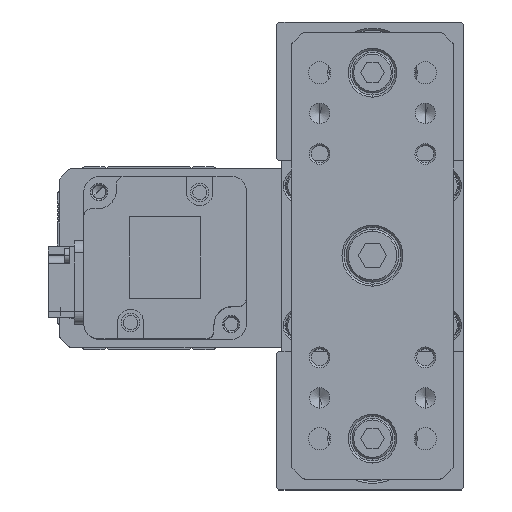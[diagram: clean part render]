
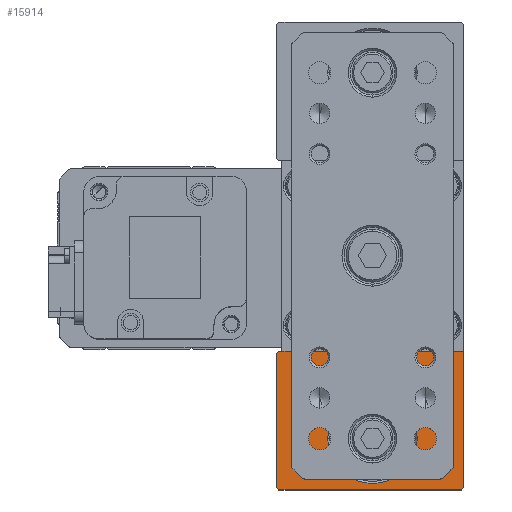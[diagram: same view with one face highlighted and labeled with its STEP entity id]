
A CAD part, top view. The second image highlights one B-rep face of the part: STEP entity #15914.
In plain terms, the highlighted planar face has unit normal (0, 0, 1).
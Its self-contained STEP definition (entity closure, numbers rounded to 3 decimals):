
#689 = LINE ( 'NONE', #11419, #23207 ) ;
#868 = AXIS2_PLACEMENT_3D ( 'NONE', #33830, #1576, #22121 ) ;
#1005 = ORIENTED_EDGE ( 'NONE', *, *, #34434, .T. ) ;
#1226 = VECTOR ( 'NONE', #17207, 1000. ) ;
#1442 = CARTESIAN_POINT ( 'NONE',  ( 11., -45., 311. ) ) ;
#1576 = DIRECTION ( 'NONE',  ( 0., 0., -1. ) ) ;
#1710 = CARTESIAN_POINT ( 'NONE',  ( -23., -57.5, 311. ) ) ;
#1941 = CIRCLE ( 'NONE', #13925, 11. ) ;
#1971 = EDGE_CURVE ( 'NONE', #14686, #16151, #31474, .T. ) ;
#2691 = VECTOR ( 'NONE', #34218, 1000. ) ;
#3340 = DIRECTION ( 'NONE',  ( 0., 1., 0. ) ) ;
#5082 = CARTESIAN_POINT ( 'NONE',  ( -23.5, -57., 311. ) ) ;
#5883 = EDGE_CURVE ( 'NONE', #35343, #34131, #14216, .T. ) ;
#5988 = CARTESIAN_POINT ( 'NONE',  ( 22.5, -23.5, 311. ) ) ;
#6419 = VECTOR ( 'NONE', #15686, 1000. ) ;
#6543 = CARTESIAN_POINT ( 'NONE',  ( 22., -57.5, 311. ) ) ;
#7222 = VERTEX_POINT ( 'NONE', #1442 ) ;
#7364 = ORIENTED_EDGE ( 'NONE', *, *, #1971, .T. ) ;
#8941 = DIRECTION ( 'NONE',  ( -1., 0., 0. ) ) ;
#9243 = DIRECTION ( 'NONE',  ( 0.707, 0.707, 0. ) ) ;
#9493 = VERTEX_POINT ( 'NONE', #14992 ) ;
#10518 = LINE ( 'NONE', #31235, #2691 ) ;
#11419 = CARTESIAN_POINT ( 'NONE',  ( -23.5, -24., 311. ) ) ;
#11694 = CARTESIAN_POINT ( 'NONE',  ( 22.5, -57., 311. ) ) ;
#11757 = ORIENTED_EDGE ( 'NONE', *, *, #5883, .T. ) ;
#12165 = CARTESIAN_POINT ( 'NONE',  ( 22., -57.5, 311. ) ) ;
#12864 = ORIENTED_EDGE ( 'NONE', *, *, #35714, .T. ) ;
#13519 = EDGE_CURVE ( 'NONE', #35634, #20476, #20441, .T. ) ;
#13920 = EDGE_CURVE ( 'NONE', #9493, #7222, #20782, .T. ) ;
#13925 = AXIS2_PLACEMENT_3D ( 'NONE', #33314, #15740, #36283 ) ;
#14216 = LINE ( 'NONE', #33263, #6419 ) ;
#14686 = VERTEX_POINT ( 'NONE', #6543 ) ;
#14992 = CARTESIAN_POINT ( 'NONE',  ( -11., -45., 311. ) ) ;
#15686 = DIRECTION ( 'NONE',  ( 0.707, -0.707, 0. ) ) ;
#15740 = DIRECTION ( 'NONE',  ( 0., 0., -1. ) ) ;
#15838 = ORIENTED_EDGE ( 'NONE', *, *, #13519, .T. ) ;
#15884 = VECTOR ( 'NONE', #9243, 1000. ) ;
#15914 = ADVANCED_FACE ( 'NONE', ( #22925, #28902 ), #19216, .F. ) ;
#15966 = LINE ( 'NONE', #23058, #1226 ) ;
#15988 = EDGE_CURVE ( 'NONE', #14686, #34131, #10518, .T. ) ;
#16151 = VERTEX_POINT ( 'NONE', #11694 ) ;
#16769 = DIRECTION ( 'NONE',  ( 0., 0., -1. ) ) ;
#17207 = DIRECTION ( 'NONE',  ( 0., 1., 0. ) ) ;
#17386 = DIRECTION ( 'NONE',  ( -0.707, -0.707, 0. ) ) ;
#17826 = EDGE_CURVE ( 'NONE', #20476, #20206, #689, .T. ) ;
#19216 = PLANE ( 'NONE',  #868 ) ;
#20139 = EDGE_LOOP ( 'NONE', ( #28074, #7364, #1005, #15838, #31378, #33977, #11757 ) ) ;
#20206 = VERTEX_POINT ( 'NONE', #32730 ) ;
#20384 = LINE ( 'NONE', #20950, #29102 ) ;
#20441 = LINE ( 'NONE', #5988, #34239 ) ;
#20476 = VERTEX_POINT ( 'NONE', #36973 ) ;
#20782 = CIRCLE ( 'NONE', #29117, 11. ) ;
#20950 = CARTESIAN_POINT ( 'NONE',  ( 22.5, -57.5, 311. ) ) ;
#21064 = EDGE_LOOP ( 'NONE', ( #12864, #38142 ) ) ;
#22121 = DIRECTION ( 'NONE',  ( -1., 0., 0. ) ) ;
#22925 = FACE_BOUND ( 'NONE', #21064, .T. ) ;
#23058 = CARTESIAN_POINT ( 'NONE',  ( -23.5, -57.5, 311. ) ) ;
#23207 = VECTOR ( 'NONE', #17386, 1000. ) ;
#24049 = CARTESIAN_POINT ( 'NONE',  ( 22.5, -23.5, 311. ) ) ;
#27704 = EDGE_CURVE ( 'NONE', #35343, #20206, #15966, .T. ) ;
#28074 = ORIENTED_EDGE ( 'NONE', *, *, #15988, .F. ) ;
#28902 = FACE_OUTER_BOUND ( 'NONE', #20139, .T. ) ;
#29102 = VECTOR ( 'NONE', #3340, 1000. ) ;
#29117 = AXIS2_PLACEMENT_3D ( 'NONE', #34353, #16769, #37333 ) ;
#31235 = CARTESIAN_POINT ( 'NONE',  ( 22.5, -57.5, 311. ) ) ;
#31378 = ORIENTED_EDGE ( 'NONE', *, *, #17826, .T. ) ;
#31474 = LINE ( 'NONE', #12165, #15884 ) ;
#32730 = CARTESIAN_POINT ( 'NONE',  ( -23.5, -24., 311. ) ) ;
#33263 = CARTESIAN_POINT ( 'NONE',  ( -23., -57.5, 311. ) ) ;
#33314 = CARTESIAN_POINT ( 'NONE',  ( 0., -45., 311. ) ) ;
#33830 = CARTESIAN_POINT ( 'NONE',  ( 22.5, -57.5, 311. ) ) ;
#33977 = ORIENTED_EDGE ( 'NONE', *, *, #27704, .F. ) ;
#34131 = VERTEX_POINT ( 'NONE', #1710 ) ;
#34218 = DIRECTION ( 'NONE',  ( -1., 0., 0. ) ) ;
#34239 = VECTOR ( 'NONE', #8941, 1000. ) ;
#34353 = CARTESIAN_POINT ( 'NONE',  ( 0., -45., 311. ) ) ;
#34434 = EDGE_CURVE ( 'NONE', #16151, #35634, #20384, .T. ) ;
#35343 = VERTEX_POINT ( 'NONE', #5082 ) ;
#35634 = VERTEX_POINT ( 'NONE', #24049 ) ;
#35714 = EDGE_CURVE ( 'NONE', #7222, #9493, #1941, .T. ) ;
#36283 = DIRECTION ( 'NONE',  ( -1., 0., 0. ) ) ;
#36973 = CARTESIAN_POINT ( 'NONE',  ( -23., -23.5, 311. ) ) ;
#37333 = DIRECTION ( 'NONE',  ( -1., 0., 0. ) ) ;
#38142 = ORIENTED_EDGE ( 'NONE', *, *, #13920, .T. ) ;
